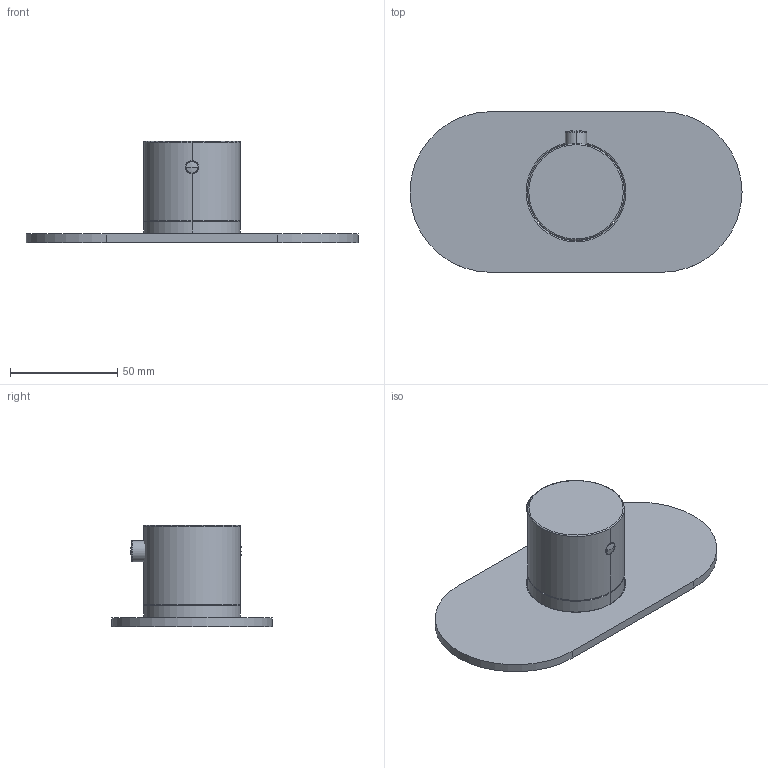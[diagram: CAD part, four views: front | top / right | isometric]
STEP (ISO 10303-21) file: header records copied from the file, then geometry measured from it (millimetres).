
FILE_DESCRIPTION(('STEP AP214'),'2;1');
FILE_NAME('DIS_3D_P300B_D300A.stp','2021-11-29T17:26:20',(''),(''),'2015.2.119','THINKDESIGN','');
FILE_SCHEMA(('AUTOMOTIVE_DESIGN'));
Length unit declared in the file: millimetre
Products named in the file (1): top
Bounding box: 155 x 75 x 47.2 mm (x, y, z)
Volume: 110405.4 mm3; surface area: 35117.4 mm2
Topology: 7 solids, 7 shells, 147 faces, 329 edges, 199 vertices
Faces by surface type: bspline 55, plane 50, cylinder 42
Entity records: 8812 total; most frequent: CARTESIAN_POINT 3112, ORIENTED_EDGE 646, DIRECTION 588, EDGE_CURVE 323, STYLED_ITEM 301, PRESENTATION_STYLE_ASSIGNMENT 297, SURFACE_STYLE_USAGE 297, SURFACE_SIDE_STYLE 297
